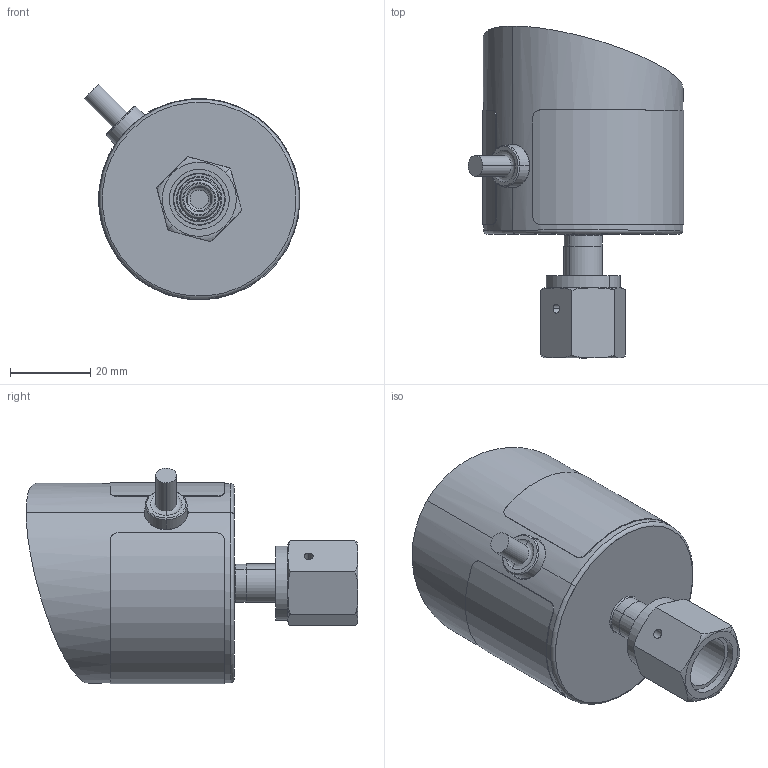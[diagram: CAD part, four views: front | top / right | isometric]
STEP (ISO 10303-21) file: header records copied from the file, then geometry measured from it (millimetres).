
FILE_DESCRIPTION (( 'STEP AP214' ), '1' );
FILE_NAME ('GPD-XXXXXX-P-XXX-SF.STEP', '2025-06-25T15:56:11', ( '' ), ( '' ), 'SwSTEP 2.0', 'SolidWorks 2023', '' );
FILE_SCHEMA (( 'AUTOMOTIVE_DESIGN' ));
Length unit declared in the file: inch
Products named in the file (5): GRx_P; ME131190; GPD-XXXXXX-P-XXX-SF; GP Body LOW DETAIL; 333124_A333124002
Assembly tree (4 placements, depth 2):
  GPD-XXXXXX-P-XXX-SF
    GP Body LOW DETAIL
    GRx_P
    333124_A333124002
    ME131190
Bounding box: 53.95 x 82.94 x 53.95 mm (x, y, z)
Volume: 90129.5 mm3; surface area: 16371 mm2
Topology: 6 solids, 14 shells, 1161 faces, 3122 edges, 2068 vertices
Faces by surface type: plane 975, cylinder 84, bspline 50, cone 25, torus 15, sphere 12
Entity records: 39216 total; most frequent: CARTESIAN_POINT 10094, ORIENTED_EDGE 6244, DIRECTION 5443, EDGE_CURVE 3122, VECTOR 2743, LINE 2743, VERTEX_POINT 2068, AXIS2_PLACEMENT_3D 1350
